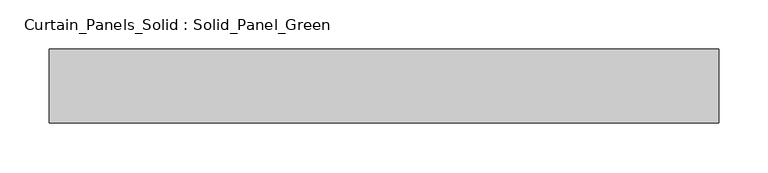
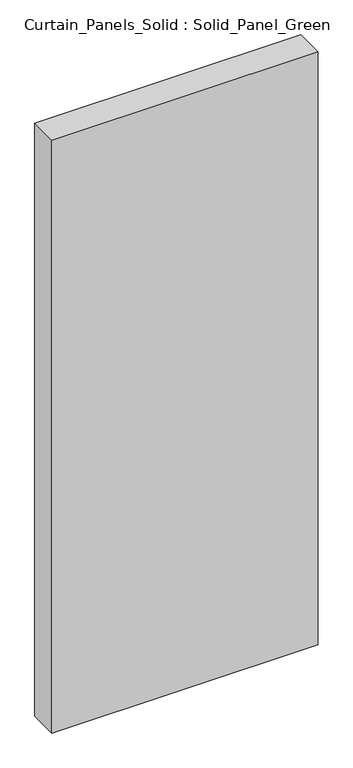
"""IFC4 building model written with IfcOpenShell, lengths in millimetres: plate geometry, Curtain_Panels_Solid : Solid_Panel_Green."""

from ifc_helpers import new_model, si_unit, origin, origin_with_axes, place, context, project, spatial, polyline, outline, extrude, source, transform, mapped, element, save


def curtain_panels_solid_solid_panel_green_14d680d5(model_context):
    return source(origin(), model_context, "Body", "SweptSolid", [
        extrude(outline(polyline([(338.7520699, 25.0), (338.7520699, -50.0), (-338.7520699, -50.0), (-338.7520699, 25.0), (338.7520699, 25.0)])), origin_with_axes(), (0.0, 0.0, 1.0), 1594.4444444),
    ])


if __name__ == "__main__":
    model = new_model("IFC4")
    model_context = context("Model", 3, world=origin())
    ifc_project = project(units=[si_unit("LENGTHUNIT", "METRE", prefix="MILLI")], contexts=[model_context])
    site = spatial("IfcSite", under=ifc_project)
    building = spatial("IfcBuilding", under=site)
    placement = place(None, origin())
    curtain_panels_solid_solid_panel_green_shape = curtain_panels_solid_solid_panel_green_14d680d5(model_context)
    element("IfcPlate", 1, ObjectType="Curtain_Panels_Solid : Solid_Panel_Green", at=placement, inside=building, context=model_context, shape_type="MappedRepresentation", body=[
        mapped(curtain_panels_solid_solid_panel_green_shape, transform((0.0, 0.0, 0.0), x_axis=(1.0, 0.0, 0.0), y_axis=(0.0, 1.0, 0.0), z_axis=(0.0, 0.0, 1.0))),
    ])
    save(model, "model.ifc")
